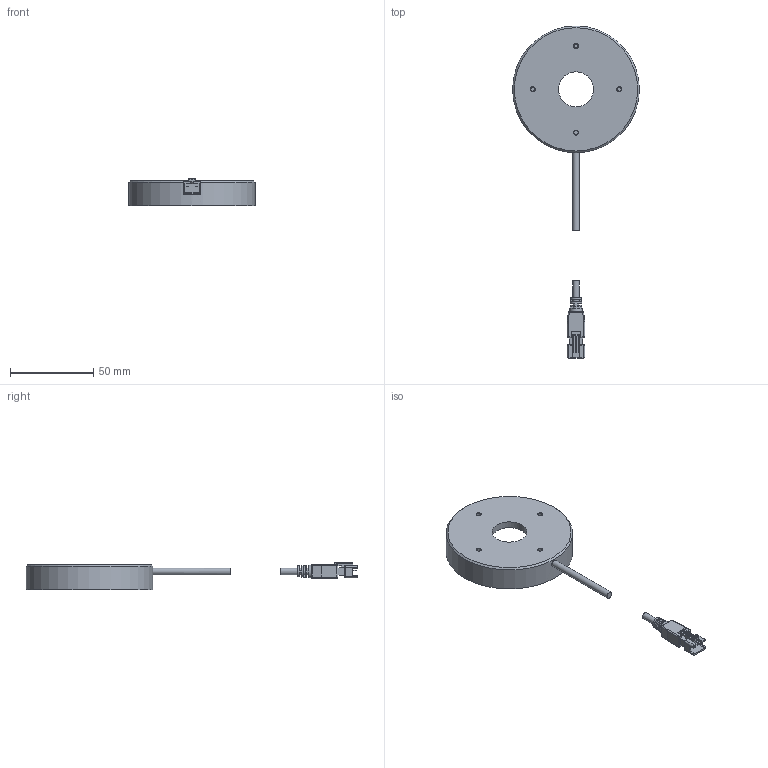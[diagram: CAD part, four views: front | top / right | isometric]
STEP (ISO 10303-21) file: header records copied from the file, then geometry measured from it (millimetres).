
FILE_DESCRIPTION(('STEP AP214'),'1');
FILE_NAME('DC-30D-70W.stp','2026-04-09T08:57:40',(' '),(' '),'Spatial InterOp 3D',' ',' ');
FILE_SCHEMA(('AUTOMOTIVE_DESIGN { 1 0 10303 214 1 1 1 1 }'));
Length unit declared in the file: metre
Products named in the file (3): DC-30D-70W; Component1; Component2
Assembly tree (2 placements, depth 2):
  DC-30D-70W
    Component1
    Component2
Bounding box: 76 x 199.13 x 16.5 mm (x, y, z)
Volume: 49676.4 mm3; surface area: 21374.5 mm2
Topology: 2 solids, 3 shells, 1085 faces, 2629 edges, 1735 vertices
Faces by surface type: plane 1020, cylinder 46, cone 7, bspline 4, torus 4, sphere 4
Full cylindrical faces by diameter (mm): 2.5 x4, 3.9 x1, 4 x1, 21 x1, 54 x1, 64 x1, 67 x1, 71.2 x1, 76 x1
Entity records: 42403 total; most frequent: CARTESIAN_POINT 5990, DIRECTION 5193, ORIENTED_EDGE 5178, EDGE_CURVE 2589, LINE 2097, VECTOR 2097, VERTEX_POINT 1723, AXIS2_PLACEMENT_3D 1548
